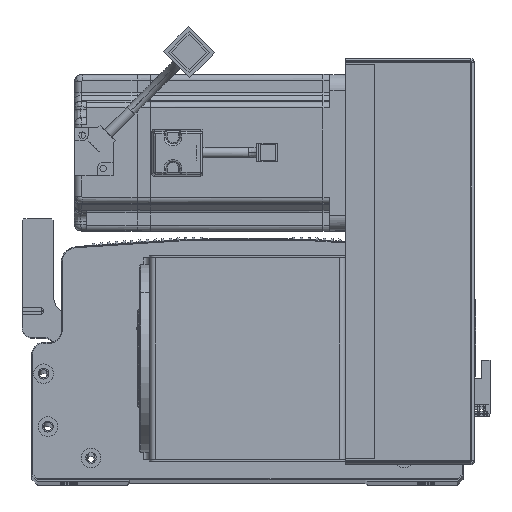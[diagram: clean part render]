
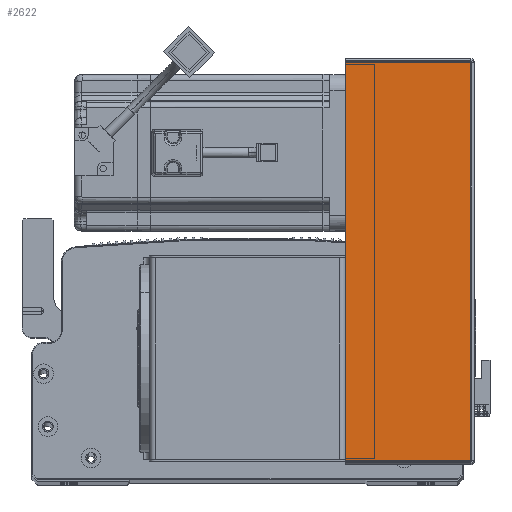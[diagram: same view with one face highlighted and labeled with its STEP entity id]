
A CAD part, top view. The second image highlights one B-rep face of the part: STEP entity #2622.
In plain terms, the highlighted planar face has unit normal (0, 0, 1) as drawn and (0, -1, 0) by its records, which use the part's own axes.
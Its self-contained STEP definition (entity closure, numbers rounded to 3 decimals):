
#324 = VERTEX_POINT ( 'NONE', #37882 ) ;
#2622 = ADVANCED_FACE ( 'NONE', ( #60966 ), #5790, .F. ) ;
#3408 = LINE ( 'NONE', #51406, #65426 ) ;
#5790 = PLANE ( 'NONE',  #42567 ) ;
#6018 = EDGE_CURVE ( 'NONE', #324, #9332, #54714, .T. ) ;
#9332 = VERTEX_POINT ( 'NONE', #22980 ) ;
#9606 = CARTESIAN_POINT ( 'NONE',  ( 0.737, -1.5, -203.293 ) ) ;
#11551 = VERTEX_POINT ( 'NONE', #71689 ) ;
#22911 = EDGE_CURVE ( 'NONE', #59201, #324, #29962, .T. ) ;
#22980 = CARTESIAN_POINT ( 'NONE',  ( 64.5, -1.5, -0.707 ) ) ;
#29327 = ORIENTED_EDGE ( 'NONE', *, *, #44750, .T. ) ;
#29691 = ORIENTED_EDGE ( 'NONE', *, *, #6018, .F. ) ;
#29962 = LINE ( 'NONE', #66882, #77636 ) ;
#32670 = ORIENTED_EDGE ( 'NONE', *, *, #74391, .T. ) ;
#33451 = DIRECTION ( 'NONE',  ( 0., 1., 0. ) ) ;
#35434 = CARTESIAN_POINT ( 'NONE',  ( 64.5, -1.5, 0. ) ) ;
#37882 = CARTESIAN_POINT ( 'NONE',  ( 0.737, -1.5, -0.707 ) ) ;
#42567 = AXIS2_PLACEMENT_3D ( 'NONE', #45930, #33451, #66453 ) ;
#44750 = EDGE_CURVE ( 'NONE', #59201, #11551, #3408, .T. ) ;
#45585 = DIRECTION ( 'NONE',  ( 1., 0., 0. ) ) ;
#45930 = CARTESIAN_POINT ( 'NONE',  ( 0., -1.5, 0. ) ) ;
#47632 = DIRECTION ( 'NONE',  ( 0., 0., 1. ) ) ;
#51406 = CARTESIAN_POINT ( 'NONE',  ( 0., -1.5, -203.293 ) ) ;
#53509 = LINE ( 'NONE', #35434, #61840 ) ;
#54175 = DIRECTION ( 'NONE',  ( 0., 0., 1. ) ) ;
#54714 = LINE ( 'NONE', #54989, #60958 ) ;
#54989 = CARTESIAN_POINT ( 'NONE',  ( 0., -1.5, -0.707 ) ) ;
#57702 = EDGE_LOOP ( 'NONE', ( #64327, #29327, #32670, #29691 ) ) ;
#59201 = VERTEX_POINT ( 'NONE', #9606 ) ;
#60958 = VECTOR ( 'NONE', #61937, 1000. ) ;
#60966 = FACE_OUTER_BOUND ( 'NONE', #57702, .T. ) ;
#61840 = VECTOR ( 'NONE', #47632, 1000. ) ;
#61937 = DIRECTION ( 'NONE',  ( 1., 0., 0. ) ) ;
#64327 = ORIENTED_EDGE ( 'NONE', *, *, #22911, .F. ) ;
#65426 = VECTOR ( 'NONE', #45585, 1000. ) ;
#66453 = DIRECTION ( 'NONE',  ( -1., 0., 0. ) ) ;
#66882 = CARTESIAN_POINT ( 'NONE',  ( 0.737, -1.5, 0. ) ) ;
#71689 = CARTESIAN_POINT ( 'NONE',  ( 64.5, -1.5, -203.293 ) ) ;
#74391 = EDGE_CURVE ( 'NONE', #11551, #9332, #53509, .T. ) ;
#77636 = VECTOR ( 'NONE', #54175, 1000. ) ;
